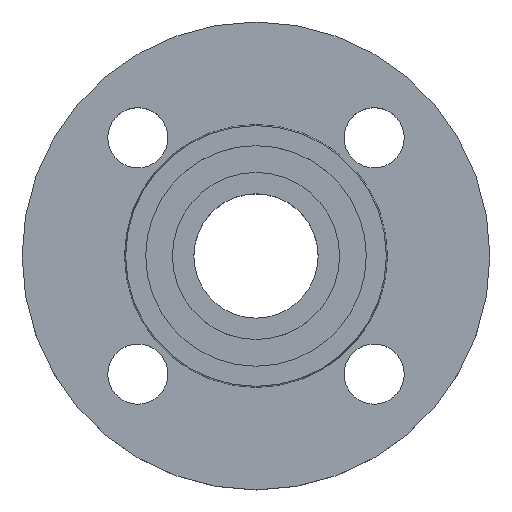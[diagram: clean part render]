
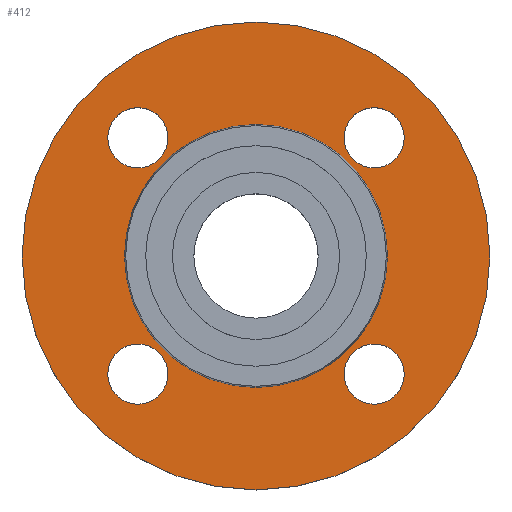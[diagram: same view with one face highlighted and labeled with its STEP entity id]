
A CAD part, top view. The second image highlights one B-rep face of the part: STEP entity #412.
In plain terms, the highlighted planar face has unit normal (0, 0, 1).
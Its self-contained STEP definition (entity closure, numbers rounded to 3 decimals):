
#5 = CARTESIAN_POINT ( 'NONE',  ( 35.355, -35.355, -2. ) ) ;
#6 = CARTESIAN_POINT ( 'NONE',  ( 44.355, 35.355, -2. ) ) ;
#8 = EDGE_CURVE ( 'NONE', #202, #587, #904, .T. ) ;
#15 = CARTESIAN_POINT ( 'NONE',  ( 44.355, -35.355, -2. ) ) ;
#16 = CIRCLE ( 'NONE', #580, 9. ) ;
#33 = CARTESIAN_POINT ( 'NONE',  ( -35.355, 35.355, -2. ) ) ;
#38 = CIRCLE ( 'NONE', #725, 9. ) ;
#44 = PLANE ( 'NONE',  #180 ) ;
#59 = DIRECTION ( 'NONE',  ( -1., 0., 0. ) ) ;
#69 = CARTESIAN_POINT ( 'NONE',  ( 39.353, 0., -2. ) ) ;
#78 = CIRCLE ( 'NONE', #645, 9. ) ;
#89 = DIRECTION ( 'NONE',  ( -1., 0., 0. ) ) ;
#98 = CIRCLE ( 'NONE', #661, 9. ) ;
#105 = DIRECTION ( 'NONE',  ( 0., 0., -1. ) ) ;
#108 = ORIENTED_EDGE ( 'NONE', *, *, #651, .T. ) ;
#121 = FACE_BOUND ( 'NONE', #849, .T. ) ;
#122 = ORIENTED_EDGE ( 'NONE', *, *, #467, .F. ) ;
#129 = VERTEX_POINT ( 'NONE', #6 ) ;
#132 = DIRECTION ( 'NONE',  ( -1., 0., 0. ) ) ;
#134 = VERTEX_POINT ( 'NONE', #618 ) ;
#139 = CARTESIAN_POINT ( 'NONE',  ( -44.355, -35.355, -2. ) ) ;
#175 = DIRECTION ( 'NONE',  ( 1., 0., 0. ) ) ;
#180 = AXIS2_PLACEMENT_3D ( 'NONE', #352, #657, #955 ) ;
#181 = DIRECTION ( 'NONE',  ( 0., 0., -1. ) ) ;
#190 = EDGE_CURVE ( 'NONE', #191, #129, #78, .T. ) ;
#191 = VERTEX_POINT ( 'NONE', #487 ) ;
#194 = FACE_BOUND ( 'NONE', #521, .T. ) ;
#202 = VERTEX_POINT ( 'NONE', #780 ) ;
#212 = AXIS2_PLACEMENT_3D ( 'NONE', #518, #812, #132 ) ;
#229 = DIRECTION ( 'NONE',  ( 0., 0., -1. ) ) ;
#232 = DIRECTION ( 'NONE',  ( 1., 0., 0. ) ) ;
#268 = DIRECTION ( 'NONE',  ( 0., 0., -1. ) ) ;
#276 = CARTESIAN_POINT ( 'NONE',  ( -70., 0., -2. ) ) ;
#279 = CIRCLE ( 'NONE', #828, 9. ) ;
#284 = VERTEX_POINT ( 'NONE', #635 ) ;
#296 = EDGE_CURVE ( 'NONE', #284, #729, #880, .T. ) ;
#305 = EDGE_CURVE ( 'NONE', #729, #284, #16, .T. ) ;
#311 = DIRECTION ( 'NONE',  ( 0., 0., -1. ) ) ;
#325 = CARTESIAN_POINT ( 'NONE',  ( 0., 0., -2. ) ) ;
#344 = DIRECTION ( 'NONE',  ( 0., 0., -1. ) ) ;
#352 = CARTESIAN_POINT ( 'NONE',  ( 39.353, 0., -2. ) ) ;
#360 = CIRCLE ( 'NONE', #493, 39.353 ) ;
#366 = ORIENTED_EDGE ( 'NONE', *, *, #190, .T. ) ;
#374 = EDGE_CURVE ( 'NONE', #791, #623, #959, .T. ) ;
#378 = CARTESIAN_POINT ( 'NONE',  ( -26.355, 35.355, -2. ) ) ;
#379 = EDGE_CURVE ( 'NONE', #623, #791, #98, .T. ) ;
#412 = ADVANCED_FACE ( 'NONE', ( #194, #507, #800, #121, #433, #730 ), #44, .T. ) ;
#417 = DIRECTION ( 'NONE',  ( 1., 0., 0. ) ) ;
#429 = VERTEX_POINT ( 'NONE', #276 ) ;
#433 = FACE_BOUND ( 'NONE', #584, .T. ) ;
#449 = CARTESIAN_POINT ( 'NONE',  ( 0., 0., -2. ) ) ;
#454 = AXIS2_PLACEMENT_3D ( 'NONE', #859, #181, #494 ) ;
#455 = AXIS2_PLACEMENT_3D ( 'NONE', #914, #229, #536 ) ;
#467 = EDGE_CURVE ( 'NONE', #429, #134, #646, .T. ) ;
#477 = CARTESIAN_POINT ( 'NONE',  ( 0., 0., -2. ) ) ;
#487 = CARTESIAN_POINT ( 'NONE',  ( 26.355, 35.355, -2. ) ) ;
#493 = AXIS2_PLACEMENT_3D ( 'NONE', #477, #770, #89 ) ;
#494 = DIRECTION ( 'NONE',  ( 1., 0., 0. ) ) ;
#507 = FACE_BOUND ( 'NONE', #569, .T. ) ;
#509 = ORIENTED_EDGE ( 'NONE', *, *, #853, .T. ) ;
#518 = CARTESIAN_POINT ( 'NONE',  ( 0., 0., -2. ) ) ;
#521 = EDGE_LOOP ( 'NONE', ( #509, #649 ) ) ;
#529 = AXIS2_PLACEMENT_3D ( 'NONE', #33, #344, #648 ) ;
#536 = DIRECTION ( 'NONE',  ( 1., 0., 0. ) ) ;
#557 = CARTESIAN_POINT ( 'NONE',  ( 35.355, 35.355, -2. ) ) ;
#569 = EDGE_LOOP ( 'NONE', ( #575, #721 ) ) ;
#572 = DIRECTION ( 'NONE',  ( 1., 0., 0. ) ) ;
#575 = ORIENTED_EDGE ( 'NONE', *, *, #296, .T. ) ;
#580 = AXIS2_PLACEMENT_3D ( 'NONE', #784, #105, #417 ) ;
#584 = EDGE_LOOP ( 'NONE', ( #806, #705 ) ) ;
#587 = VERTEX_POINT ( 'NONE', #69 ) ;
#611 = CARTESIAN_POINT ( 'NONE',  ( -44.355, 35.355, -2. ) ) ;
#615 = CARTESIAN_POINT ( 'NONE',  ( 35.355, 35.355, -2. ) ) ;
#616 = DIRECTION ( 'NONE',  ( 1., 0., 0. ) ) ;
#618 = CARTESIAN_POINT ( 'NONE',  ( 70., 0., -2. ) ) ;
#623 = VERTEX_POINT ( 'NONE', #611 ) ;
#628 = DIRECTION ( 'NONE',  ( 0., 0., -1. ) ) ;
#630 = EDGE_CURVE ( 'NONE', #878, #883, #881, .T. ) ;
#635 = CARTESIAN_POINT ( 'NONE',  ( -26.355, -35.355, -2. ) ) ;
#645 = AXIS2_PLACEMENT_3D ( 'NONE', #557, #854, #175 ) ;
#646 = CIRCLE ( 'NONE', #212, 70. ) ;
#648 = DIRECTION ( 'NONE',  ( 1., 0., 0. ) ) ;
#649 = ORIENTED_EDGE ( 'NONE', *, *, #630, .T. ) ;
#651 = EDGE_CURVE ( 'NONE', #129, #191, #279, .T. ) ;
#655 = EDGE_LOOP ( 'NONE', ( #736, #122 ) ) ;
#657 = DIRECTION ( 'NONE',  ( 0., 0., 1. ) ) ;
#661 = AXIS2_PLACEMENT_3D ( 'NONE', #948, #268, #572 ) ;
#699 = CARTESIAN_POINT ( 'NONE',  ( 26.355, -35.355, -2. ) ) ;
#705 = ORIENTED_EDGE ( 'NONE', *, *, #715, .T. ) ;
#709 = ORIENTED_EDGE ( 'NONE', *, *, #374, .T. ) ;
#715 = EDGE_CURVE ( 'NONE', #587, #202, #360, .T. ) ;
#721 = ORIENTED_EDGE ( 'NONE', *, *, #305, .T. ) ;
#725 = AXIS2_PLACEMENT_3D ( 'NONE', #5, #311, #616 ) ;
#729 = VERTEX_POINT ( 'NONE', #139 ) ;
#730 = FACE_OUTER_BOUND ( 'NONE', #655, .T. ) ;
#736 = ORIENTED_EDGE ( 'NONE', *, *, #887, .F. ) ;
#742 = DIRECTION ( 'NONE',  ( 0., 0., -1. ) ) ;
#770 = DIRECTION ( 'NONE',  ( 0., 0., -1. ) ) ;
#780 = CARTESIAN_POINT ( 'NONE',  ( -39.353, 0., -2. ) ) ;
#784 = CARTESIAN_POINT ( 'NONE',  ( -35.355, -35.355, -2. ) ) ;
#791 = VERTEX_POINT ( 'NONE', #378 ) ;
#798 = CIRCLE ( 'NONE', #926, 70. ) ;
#800 = FACE_BOUND ( 'NONE', #817, .T. ) ;
#806 = ORIENTED_EDGE ( 'NONE', *, *, #8, .T. ) ;
#810 = ORIENTED_EDGE ( 'NONE', *, *, #379, .T. ) ;
#812 = DIRECTION ( 'NONE',  ( 0., 0., -1. ) ) ;
#817 = EDGE_LOOP ( 'NONE', ( #709, #810 ) ) ;
#828 = AXIS2_PLACEMENT_3D ( 'NONE', #615, #917, #232 ) ;
#849 = EDGE_LOOP ( 'NONE', ( #108, #366 ) ) ;
#853 = EDGE_CURVE ( 'NONE', #883, #878, #38, .T. ) ;
#854 = DIRECTION ( 'NONE',  ( 0., 0., -1. ) ) ;
#859 = CARTESIAN_POINT ( 'NONE',  ( -35.355, -35.355, -2. ) ) ;
#878 = VERTEX_POINT ( 'NONE', #699 ) ;
#880 = CIRCLE ( 'NONE', #454, 9. ) ;
#881 = CIRCLE ( 'NONE', #455, 9. ) ;
#883 = VERTEX_POINT ( 'NONE', #15 ) ;
#887 = EDGE_CURVE ( 'NONE', #134, #429, #798, .T. ) ;
#889 = AXIS2_PLACEMENT_3D ( 'NONE', #449, #742, #59 ) ;
#904 = CIRCLE ( 'NONE', #889, 39.353 ) ;
#914 = CARTESIAN_POINT ( 'NONE',  ( 35.355, -35.355, -2. ) ) ;
#917 = DIRECTION ( 'NONE',  ( 0., 0., -1. ) ) ;
#926 = AXIS2_PLACEMENT_3D ( 'NONE', #325, #628, #931 ) ;
#931 = DIRECTION ( 'NONE',  ( -1., 0., 0. ) ) ;
#948 = CARTESIAN_POINT ( 'NONE',  ( -35.355, 35.355, -2. ) ) ;
#955 = DIRECTION ( 'NONE',  ( 1., 0., 0. ) ) ;
#959 = CIRCLE ( 'NONE', #529, 9. ) ;
